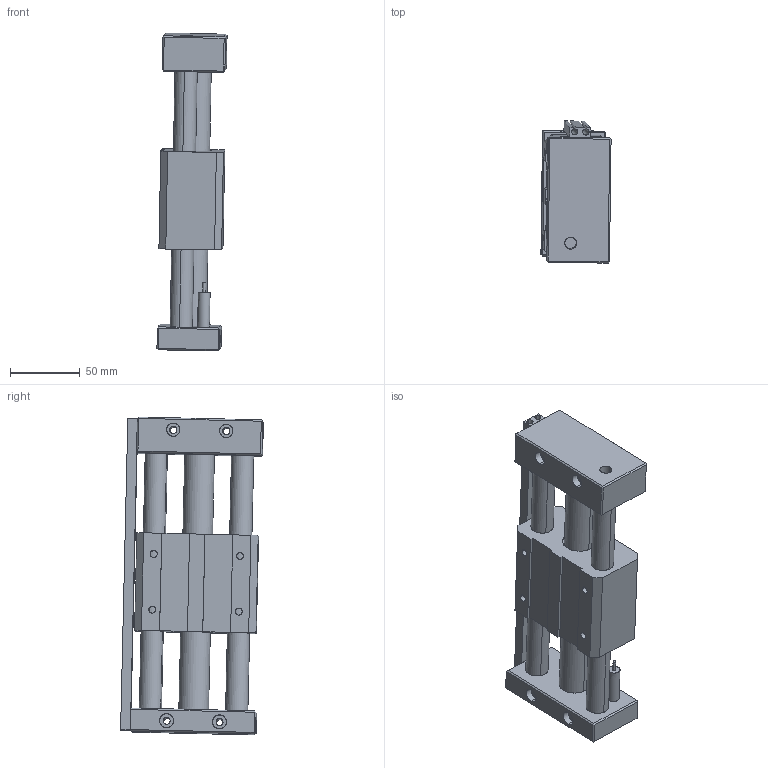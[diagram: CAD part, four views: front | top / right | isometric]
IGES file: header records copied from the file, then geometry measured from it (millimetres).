
Start section: SolidWorks IGES file using analytic representation for surfaces
Global section: file name: D:\Documents de SGA\Pieces 2D et 3D\GRU\iges\Assemblage1.IGS; native system: SolidWorks 2010; preprocessor: SolidWorks 2010; author: SGA; date: 111216.101951; units: millimetre
Bounding box: 50.34 x 102.5 x 228.24 mm (x, y, z)
Surface area: 120872.2 mm2 (no closed solid volume)
Topology: 0 solids, 0 shells, 186 faces, 3266 edges, 3266 vertices
Faces by surface type: bspline 102, revolution 84
